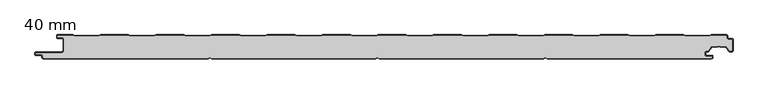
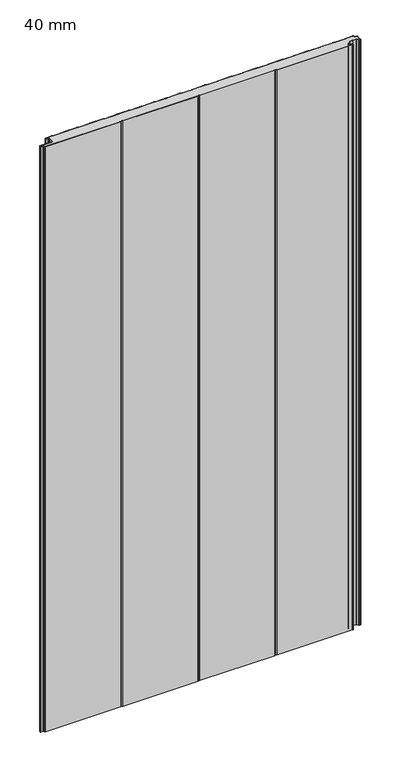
"""IFC4 building model written with IfcOpenShell, lengths in millimetres: plate geometry, HIANSA PANEL - H20.F02.003-PANELES DE FACHADA VERTICAL - PANEL SEMILISO - Panel de Muro Cortina : 40 mm."""

from ifc_helpers import new_model, si_unit, point, frame_2d, origin, origin_with_axes, place, context, project, spatial, polyline, circle_curve, trimmed, segment, composite_curve, outline, extrude, source, transform, mapped, element, save


def plate_40_mm_a75b9acf(model_context):
    return source(origin(), model_context, "Body", "SweptSolid", [
        extrude(outline(polyline([(572.7810465, -23.7998119), (572.7810465, -12.9009477), (573.2810465, -13.7002597), (573.2810465, -23.010534), (572.7810465, -23.7998119)])), origin_with_axes(), (0.0, 0.0, 1.0), 2200.0),
        extrude(outline(polyline([(-524.6789535, -12.9205793), (-524.6789535, -23.7723356), (-525.1789534, -23.0105341), (-525.1789534, -13.7002595), (-524.6789535, -12.9205793)])), origin_with_axes(), (0.0, 0.0, 1.0), 2200.0),
        extrude(outline(composite_curve([segment(polyline([(-525.1789536, -13.7002597), (-525.1789536, -7.54)]), True, "CONTINUOUS"), segment(trimmed(circle_curve(frame_2d((-526.7189536, -7.54)), 1.54), [point((-525.1789536, -7.54))], [point((-526.7189536, -6.0))], True, "CARTESIAN"), True, "CONTINUOUS"), segment(polyline([(-526.7189536, -6.0), (-534.3322682, -6.0)]), True, "CONTINUOUS"), segment(trimmed(circle_curve(frame_2d((-534.3322682, -4.5)), 1.5), [point((-534.3322682, -6.0))], [point((-535.8322682, -4.5))], False, "CARTESIAN"), True, "CONTINUOUS"), segment(polyline([(-535.8322682, -4.5), (-535.8322682, -1.5)]), True, "CONTINUOUS"), segment(trimmed(circle_curve(frame_2d((-534.3322682, -1.5)), 1.5), [point((-535.8322682, -1.5))], [point((-534.3322682, 0.0))], False, "CARTESIAN"), True, "CONTINUOUS"), segment(polyline([(-534.3322682, 0.0), (-509.3322682, 0.0), (-506.3322682, -1.0), (-466.3322682, -1.0), (-463.3322682, 0.0), (-418.3322682, 0.0), (-415.3322682, -1.0), (-375.3322682, -1.0), (-372.3322682, 0.0), (-327.3322682, 0.0), (-324.3322682, -1.0), (-284.3322682, -1.0), (-281.3322682, 0.0), (-236.3322682, 0.0), (-233.3322682, -1.0), (-193.3322682, -1.0), (-190.3322682, 0.0), (-145.3322682, 0.0), (-142.3322682, -1.0), (-102.3322682, -1.0), (-99.3322682, 0.0), (-54.3322682, 0.0), (-51.3322682, -1.0), (-11.3322682, -1.0), (-8.3322682, 0.0), (36.6677318, 0.0), (39.6677318, -1.0), (79.6677318, -1.0), (82.6677318, 0.0), (127.6677318, 0.0), (130.6677318, -1.0), (170.6677318, -1.0), (173.6677318, 0.0), (218.6677318, 0.0), (221.6677318, -1.0), (261.6677318, -1.0), (264.6677318, 0.0), (309.6677318, 0.0), (312.6677318, -1.0), (352.6677318, -1.0), (355.6677318, 0.0), (400.6677318, 0.0), (403.6677318, -1.0), (443.6677318, -1.0), (446.6677318, 0.0), (491.6677318, 0.0), (494.6677318, -1.0), (534.6677318, -1.0), (537.6677318, 0.0), (562.6277318, 0.0)]), True, "CONTINUOUS"), segment(trimmed(circle_curve(frame_2d((562.6277318, -1.5)), 1.5), [point((562.6277318, 0.0))], [point((564.1277318, -1.5000023))], False, "CARTESIAN"), True, "CONTINUOUS"), segment(polyline([(564.1277318, -1.5000023), (564.1277269, -4.7460034)]), True, "CONTINUOUS"), segment(trimmed(circle_curve(frame_2d((565.6317269, -4.7460057)), 1.504), [point((564.1277269, -4.7460034))], [point((565.6317269, -6.2500057))], True, "CARTESIAN"), True, "CONTINUOUS"), segment(polyline([(565.6317269, -6.2500057), (571.7810464, -6.2500057)]), True, "CONTINUOUS"), segment(trimmed(circle_curve(frame_2d((571.7810464, -7.7500057)), 1.5), [point((571.7810464, -6.2500057))], [point((573.2810464, -7.7500057))], False, "CARTESIAN"), True, "CONTINUOUS"), segment(polyline([(573.2810464, -7.7500057), (573.2810464, -13.7002597), (572.7810464, -12.9009477), (572.7810464, -7.75)]), True, "CONTINUOUS"), segment(trimmed(circle_curve(frame_2d((571.7810464, -7.75)), 1.0), [point((572.7810464, -7.75))], [point((571.7810464, -6.75))], True, "CARTESIAN"), True, "CONTINUOUS"), segment(polyline([(571.7810464, -6.75), (565.6317318, -6.75)]), True, "CONTINUOUS"), segment(trimmed(circle_curve(frame_2d((565.6317318, -4.746)), 2.004), [point((565.6317318, -6.75))], [point((563.6277318, -4.746))], False, "CARTESIAN"), True, "CONTINUOUS"), segment(polyline([(563.6277318, -4.746), (563.6277318, -1.5)]), True, "CONTINUOUS"), segment(trimmed(circle_curve(frame_2d((562.6277318, -1.5)), 1.0), [point((563.6277318, -1.5))], [point((562.6277318, -0.5))], True, "CARTESIAN"), True, "CONTINUOUS"), segment(polyline([(562.6277318, -0.5), (537.7488706, -0.5), (534.7488706, -1.5), (494.5865929, -1.5), (491.5865929, -0.5), (446.7488706, -0.5), (443.7488706, -1.5), (403.5865929, -1.5), (400.5865929, -0.5), (355.7488706, -0.5), (352.7488706, -1.5), (312.5865929, -1.5), (309.5865929, -0.5), (264.7488706, -0.5), (261.7488706, -1.5), (221.5865929, -1.5), (218.5865929, -0.5), (173.7488706, -0.5), (170.7488706, -1.5), (130.5865929, -1.5), (127.5865929, -0.5), (82.7488706, -0.5), (79.7488706, -1.5), (39.5865929, -1.5), (36.5865929, -0.5), (-8.2511294, -0.5), (-11.2511294, -1.5), (-51.4134071, -1.5), (-54.4134071, -0.5), (-99.2511294, -0.5), (-102.2511294, -1.5), (-142.4134071, -1.5), (-145.4134071, -0.5), (-190.2511294, -0.5), (-193.2511294, -1.5), (-233.4134071, -1.5), (-236.4134071, -0.5), (-281.2511294, -0.5), (-284.2511294, -1.5), (-324.4134071, -1.5), (-327.4134071, -0.5), (-372.2511294, -0.5), (-375.2511294, -1.5), (-415.4134071, -1.5), (-418.4134071, -0.5), (-463.2511294, -0.5), (-466.2511294, -1.5), (-506.4134071, -1.5), (-509.4134071, -0.5), (-534.3322682, -0.5)]), True, "CONTINUOUS"), segment(trimmed(circle_curve(frame_2d((-534.3322682, -1.5)), 1.0), [point((-534.3322682, -0.5))], [point((-535.3322682, -1.4999981))], True, "CARTESIAN"), True, "CONTINUOUS"), segment(polyline([(-535.3322682, -1.4999981), (-535.3322739, -4.4999981)]), True, "CONTINUOUS"), segment(trimmed(circle_curve(frame_2d((-534.3322682, -4.5)), 1.0000057), [point((-535.3322739, -4.4999981))], [point((-534.3322682, -5.5000057))], True, "CARTESIAN"), True, "CONTINUOUS"), segment(polyline([(-534.3322682, -5.5000057), (-526.7189536, -5.5000057)]), True, "CONTINUOUS"), segment(trimmed(circle_curve(frame_2d((-526.7189536, -7.5400057)), 2.04), [point((-526.7189536, -5.5000057))], [point((-524.6789536, -7.5400057))], False, "CARTESIAN"), True, "CONTINUOUS"), segment(polyline([(-524.6789536, -7.5400057), (-524.6789536, -12.9205793), (-525.1789536, -13.7002597)]), True, "CONTINUOUS")], self_intersect=False)), origin_with_axes(), (0.0, 0.0, 1.0), 2200.0),
        extrude(outline(composite_curve([segment(polyline([(-288.7930165, -40.0), (-555.8367122, -40.0), (-558.3953079, -39.3603511)]), True, "CONTINUOUS"), segment(trimmed(circle_curve(frame_2d((-557.9344902, -37.5170803)), 1.9), [point((-558.3953079, -39.3603511))], [point((-559.8344902, -37.5170803))], False, "CARTESIAN"), True, "CONTINUOUS"), segment(polyline([(-559.8344902, -37.5170803), (-559.8344902, -35.1276596)]), True, "CONTINUOUS"), segment(trimmed(circle_curve(frame_2d((-560.8344902, -35.1276596)), 1.0), [point((-559.8344902, -35.1276596))], [point((-560.8344902, -34.1276596))], True, "CARTESIAN"), True, "CONTINUOUS"), segment(polyline([(-560.8344902, -34.1276596), (-570.2500002, -34.1276596)]), True, "CONTINUOUS"), segment(trimmed(circle_curve(frame_2d((-570.2500002, -33.1276596)), 1.0), [point((-570.2500002, -34.1276596))], [point((-571.2500002, -33.1276596))], False, "CARTESIAN"), True, "CONTINUOUS"), segment(polyline([(-571.2500002, -33.1276596), (-571.2500002, -29.3776596)]), True, "CONTINUOUS"), segment(trimmed(circle_curve(frame_2d((-570.2500002, -29.3776596)), 1.0), [point((-571.2500002, -29.3776596))], [point((-570.2500002, -28.3776596))], False, "CARTESIAN"), True, "CONTINUOUS"), segment(polyline([(-570.2500002, -28.3776596), (-527.2189536, -28.3776596)]), True, "CONTINUOUS"), segment(trimmed(circle_curve(frame_2d((-527.2189536, -26.3376596)), 2.04), [point((-527.2189536, -28.3776596))], [point((-525.1789536, -26.3376596))], True, "CARTESIAN"), True, "CONTINUOUS"), segment(polyline([(-525.1789536, -26.3376596), (-525.1789536, -23.010534), (-524.6789536, -23.7723356), (-524.6789536, -26.3376596)]), True, "CONTINUOUS"), segment(trimmed(circle_curve(frame_2d((-527.2189536, -26.3376596)), 2.54), [point((-524.6789536, -26.3376596))], [point((-527.2189536, -28.8776596))], False, "CARTESIAN"), True, "CONTINUOUS"), segment(polyline([(-527.2189536, -28.8776596), (-570.7500002, -28.8776596), (-570.7500002, -33.6276596), (-560.8344902, -33.6276596)]), True, "CONTINUOUS"), segment(trimmed(circle_curve(frame_2d((-560.8344902, -35.1276596)), 1.5), [point((-560.8344902, -33.6276596))], [point((-559.3344902, -35.1276596))], False, "CARTESIAN"), True, "CONTINUOUS"), segment(polyline([(-559.3344902, -35.1276596), (-559.3344902, -37.5178943)]), True, "CONTINUOUS"), segment(trimmed(circle_curve(frame_2d((-557.9355327, -37.5178943)), 1.3989577), [point((-559.3344902, -37.5178943))], [point((-558.2748298, -38.8750826))], True, "CARTESIAN"), True, "CONTINUOUS"), segment(polyline([(-558.2748298, -38.8750826), (-555.7751594, -39.5), (-288.8753062, -39.5), (-284.8344902, -37.9523537), (-280.7936743, -39.5), (-13.8753062, -39.5), (-9.8344902, -37.9523537), (-5.7936743, -39.5), (261.1246938, -39.5), (265.1655098, -37.9523537), (269.2063257, -39.5), (536.106179, -39.5), (538.6050596, -38.8752798)]), True, "CONTINUOUS"), segment(trimmed(circle_curve(frame_2d((538.2655098, -37.5170803)), 1.4), [point((538.6050596, -38.8752798))], [point((539.6655098, -37.5170803))], True, "CARTESIAN"), True, "CONTINUOUS"), segment(polyline([(539.6655098, -37.5170803), (539.6655098, -34.8776596), (529.2499998, -34.8776596)]), True, "CONTINUOUS"), segment(trimmed(circle_curve(frame_2d((529.2499998, -33.3776596)), 1.5), [point((529.2499998, -34.8776596))], [point((527.7499998, -33.3776596))], False, "CARTESIAN"), True, "CONTINUOUS"), segment(polyline([(527.7499998, -33.3776596), (527.7499998, -29.1276596)]), True, "CONTINUOUS"), segment(trimmed(circle_curve(frame_2d((529.2499998, -29.1276596)), 1.5), [point((527.7499998, -29.1276596))], [point((529.2499998, -27.6276596))], False, "CARTESIAN"), True, "CONTINUOUS"), segment(polyline([(529.2499998, -27.6276596), (532.101303, -27.6276596)]), True, "CONTINUOUS"), segment(trimmed(circle_curve(frame_2d((532.101303, -26.1276596)), 1.5), [point((532.101303, -27.6276596))], [point((533.330031, -26.9880243))], True, "CARTESIAN"), True, "CONTINUOUS"), segment(polyline([(533.330031, -26.9880243), (537.5715505, -20.9305067)]), True, "CONTINUOUS"), segment(trimmed(circle_curve(frame_2d((539.2098546, -22.0776596)), 2.0), [point((537.5715505, -20.9305067))], [point((539.2098546, -20.0776596))], False, "CARTESIAN"), True, "CONTINUOUS"), segment(polyline([(539.2098546, -20.0776596), (548.3071795, -20.0776596), (549.4999998, -19.3889845)]), True, "CONTINUOUS"), segment(trimmed(circle_curve(frame_2d((549.9999998, -20.2550099)), 1.0), [point((549.4999998, -19.3889845))], [point((550.4999998, -19.3889845))], False, "CARTESIAN"), True, "CONTINUOUS"), segment(polyline([(550.4999998, -19.3889845), (551.6928202, -20.0776596), (560.7901451, -20.0776596)]), True, "CONTINUOUS"), segment(trimmed(circle_curve(frame_2d((560.7901451, -22.0776596)), 2.0), [point((560.7901451, -20.0776596))], [point((562.4284492, -20.9305067))], False, "CARTESIAN"), True, "CONTINUOUS"), segment(polyline([(562.4284492, -20.9305067), (566.6699686, -26.9880243)]), True, "CONTINUOUS"), segment(trimmed(circle_curve(frame_2d((567.8986967, -26.1276596)), 1.5), [point((566.6699686, -26.9880243))], [point((567.8986967, -27.6276596))], True, "CARTESIAN"), True, "CONTINUOUS"), segment(polyline([(567.8986967, -27.6276596), (571.2810464, -27.6276596)]), True, "CONTINUOUS"), segment(trimmed(circle_curve(frame_2d((571.2810464, -26.1276596)), 1.5), [point((571.2810464, -27.6276596))], [point((572.7810464, -26.1276596))], True, "CARTESIAN"), True, "CONTINUOUS"), segment(polyline([(572.7810464, -26.1276596), (572.7810464, -23.7998119), (573.2810464, -23.010534), (573.2810464, -26.1276596)]), True, "CONTINUOUS"), segment(trimmed(circle_curve(frame_2d((571.2810464, -26.1276596)), 2.0), [point((573.2810464, -26.1276596))], [point((571.2810464, -28.1276596))], False, "CARTESIAN"), True, "CONTINUOUS"), segment(polyline([(571.2810464, -28.1276596), (567.8986967, -28.1276596)]), True, "CONTINUOUS"), segment(trimmed(circle_curve(frame_2d((567.8986967, -26.1276596)), 2.0), [point((567.8986967, -28.1276596))], [point((566.2603926, -27.2748125))], False, "CARTESIAN"), True, "CONTINUOUS"), segment(polyline([(566.2603926, -27.2748125), (562.0188732, -21.2172949)]), True, "CONTINUOUS"), segment(trimmed(circle_curve(frame_2d((560.7901451, -22.0776596)), 1.5), [point((562.0188732, -21.2172949))], [point((560.7901451, -20.5776596))], True, "CARTESIAN"), True, "CONTINUOUS"), segment(polyline([(560.7901451, -20.5776596), (551.5588456, -20.5776596), (549.9999998, -19.6776596), (548.4411541, -20.5776596), (539.2098546, -20.5776596)]), True, "CONTINUOUS"), segment(trimmed(circle_curve(frame_2d((539.2098546, -22.0776596)), 1.5), [point((539.2098546, -20.5776596))], [point((537.9811265, -21.2172949))], True, "CARTESIAN"), True, "CONTINUOUS"), segment(polyline([(537.9811265, -21.2172949), (533.7396071, -27.2748125)]), True, "CONTINUOUS"), segment(trimmed(circle_curve(frame_2d((532.101303, -26.1276596)), 2.0), [point((533.7396071, -27.2748125))], [point((532.101303, -28.1276596))], False, "CARTESIAN"), True, "CONTINUOUS"), segment(polyline([(532.101303, -28.1276596), (529.2499998, -28.1276596)]), True, "CONTINUOUS"), segment(trimmed(circle_curve(frame_2d((529.2499998, -29.1276596)), 1.0), [point((529.2499998, -28.1276596))], [point((528.2499998, -29.1276596))], True, "CARTESIAN"), True, "CONTINUOUS"), segment(polyline([(528.2499998, -29.1276596), (528.2499998, -33.3776596)]), True, "CONTINUOUS"), segment(trimmed(circle_curve(frame_2d((529.2499998, -33.3776596)), 1.0), [point((528.2499998, -33.3776596))], [point((529.2499998, -34.3776596))], True, "CARTESIAN"), True, "CONTINUOUS"), segment(polyline([(529.2499998, -34.3776596), (539.1655098, -34.3776596)]), True, "CONTINUOUS"), segment(trimmed(circle_curve(frame_2d((539.1655098, -35.3776596)), 1.0), [point((539.1655098, -34.3776596))], [point((540.1655098, -35.3776596))], False, "CARTESIAN"), True, "CONTINUOUS"), segment(polyline([(540.1655098, -35.3776596), (540.1655098, -37.5170803)]), True, "CONTINUOUS"), segment(trimmed(circle_curve(frame_2d((538.2655098, -37.5170803)), 1.9), [point((540.1655098, -37.5170803))], [point((538.7263275, -39.3603511))], False, "CARTESIAN"), True, "CONTINUOUS"), segment(polyline([(538.7263275, -39.3603511), (536.1677318, -40.0), (269.124036, -40.0), (265.1655098, -38.483871), (261.2069835, -40.0), (-5.875964, -40.0), (-9.8344902, -38.483871), (-13.7930165, -40.0), (-280.875964, -40.0), (-284.8344902, -38.483871), (-288.7930165, -40.0)]), True, "CONTINUOUS")], self_intersect=False)), origin_with_axes(), (0.0, 0.0, 1.0), 2200.0),
        extrude(outline(composite_curve([segment(polyline([(-555.804199, -39.4927405), (-558.2748296, -38.8750829)]), True, "CONTINUOUS"), segment(trimmed(circle_curve(frame_2d((-557.9355326, -37.5178947)), 1.3989576), [point((-558.2748296, -38.8750829))], [point((-559.3344902, -37.5178947))], False, "CARTESIAN"), True, "CONTINUOUS"), segment(polyline([(-559.3344902, -37.5178947), (-559.3344902, -35.1276601)]), True, "CONTINUOUS"), segment(trimmed(circle_curve(frame_2d((-560.8344902, -35.1276601)), 1.5), [point((-559.3344902, -35.1276601))], [point((-560.8344902, -33.6276601))], True, "CARTESIAN"), True, "CONTINUOUS"), segment(polyline([(-560.8344902, -33.6276601), (-570.7500001, -33.6276601), (-570.7500001, -28.8776601), (-527.2189535, -28.8776601)]), True, "CONTINUOUS"), segment(trimmed(circle_curve(frame_2d((-527.2189535, -26.3376599)), 2.5400001), [point((-527.2189535, -28.8776601))], [point((-524.6789534, -26.3376599))], True, "CARTESIAN"), True, "CONTINUOUS"), segment(polyline([(-524.6789534, -26.3376599), (-524.6789534, -7.540006)]), True, "CONTINUOUS"), segment(trimmed(circle_curve(frame_2d((-526.7189536, -7.540006)), 2.0400002), [point((-524.6789534, -7.540006))], [point((-526.7189536, -5.5000059))], True, "CARTESIAN"), True, "CONTINUOUS"), segment(polyline([(-526.7189536, -5.5000059), (-534.332268, -5.5000059)]), True, "CONTINUOUS"), segment(trimmed(circle_curve(frame_2d((-534.332268, -4.4999998)), 1.0000061), [point((-534.332268, -5.5000059))], [point((-535.3322741, -4.4999978))], False, "CARTESIAN"), True, "CONTINUOUS"), segment(polyline([(-535.3322741, -4.4999978), (-535.332268, -1.4999977)]), True, "CONTINUOUS"), segment(trimmed(circle_curve(frame_2d((-534.3322682, -1.4999997)), 0.9999997), [point((-535.332268, -1.4999977))], [point((-534.3322682, -0.5))], False, "CARTESIAN"), True, "CONTINUOUS"), segment(polyline([(-534.3322682, -0.5), (-509.413407, -0.5), (-506.413407, -1.5000005), (-466.2511293, -1.5000005), (-463.2511293, -0.5000005), (-418.413407, -0.5000005), (-415.413407, -1.5000005), (-375.2511293, -1.5000005), (-372.2511293, -0.5000005), (-327.413407, -0.5000005), (-324.413407, -1.5000005), (-284.2511293, -1.5000005), (-281.2511293, -0.5000005), (-236.413407, -0.5000005), (-233.413407, -1.5000005), (-193.2511293, -1.5000005), (-190.2511293, -0.5000005), (-145.413407, -0.5000005), (-142.413407, -1.5000005), (-102.2511293, -1.5000005), (-99.2511293, -0.5000005), (-54.413407, -0.5000005), (-51.413407, -1.5000005), (-11.2511293, -1.5000005), (-8.2511293, -0.5000005), (36.586593, -0.5000005), (39.586593, -1.5000005), (79.7488707, -1.5000005), (82.7488707, -0.5000005), (127.586593, -0.5000005), (130.586593, -1.5000005), (170.7488707, -1.5000005), (173.7488707, -0.5000005), (218.586593, -0.5000005), (221.586593, -1.5000005), (261.7488707, -1.5000005), (264.7488707, -0.5000005), (309.586593, -0.5000005), (312.586593, -1.5000005), (352.7488707, -1.5000005), (355.7488707, -0.5000005), (400.586593, -0.5000005), (403.586593, -1.5000005), (443.7488707, -1.5000005), (446.7488707, -0.5000005), (491.586593, -0.5000005), (494.586593, -1.5000005), (534.7488707, -1.5000005), (537.7488721, -0.5), (562.6277319, -0.5)]), True, "CONTINUOUS"), segment(trimmed(circle_curve(frame_2d((562.6277319, -1.5)), 1.0), [point((562.6277319, -0.5))], [point((563.6277319, -1.5))], False, "CARTESIAN"), True, "CONTINUOUS"), segment(polyline([(563.6277319, -1.5), (563.6277319, -4.7460005)]), True, "CONTINUOUS"), segment(trimmed(circle_curve(frame_2d((565.6317319, -4.7460005)), 2.004), [point((563.6277319, -4.7460005))], [point((565.6317319, -6.7500005))], True, "CARTESIAN"), True, "CONTINUOUS"), segment(polyline([(565.6317319, -6.7500005), (571.7810465, -6.7500005)]), True, "CONTINUOUS"), segment(trimmed(circle_curve(frame_2d((571.7810465, -7.7500005)), 1.0), [point((571.7810465, -6.7500005))], [point((572.7810465, -7.7500005))], False, "CARTESIAN"), True, "CONTINUOUS"), segment(polyline([(572.7810465, -7.7500005), (572.7810465, -26.1276601)]), True, "CONTINUOUS"), segment(trimmed(circle_curve(frame_2d((571.2810465, -26.1276601)), 1.5), [point((572.7810465, -26.1276601))], [point((571.2810465, -27.6276601))], False, "CARTESIAN"), True, "CONTINUOUS"), segment(polyline([(571.2810465, -27.6276601), (567.8986968, -27.6276601)]), True, "CONTINUOUS"), segment(trimmed(circle_curve(frame_2d((567.8986968, -26.1276601)), 1.5), [point((567.8986968, -27.6276601))], [point((566.6699687, -26.9880247))], False, "CARTESIAN"), True, "CONTINUOUS"), segment(polyline([(566.6699687, -26.9880247), (562.4284493, -20.9305072)]), True, "CONTINUOUS"), segment(trimmed(circle_curve(frame_2d((560.7901452, -22.0776601)), 2.0), [point((562.4284493, -20.9305072))], [point((560.7901452, -20.0776601))], True, "CARTESIAN"), True, "CONTINUOUS"), segment(polyline([(560.7901452, -20.0776601), (551.6928203, -20.0776601), (550.4999999, -19.3889849)]), True, "CONTINUOUS"), segment(trimmed(circle_curve(frame_2d((549.9999999, -20.2550103)), 1.0), [point((550.4999999, -19.3889849))], [point((549.4999999, -19.3889849))], True, "CARTESIAN"), True, "CONTINUOUS"), segment(polyline([(549.4999999, -19.3889849), (548.3071796, -20.0776601), (539.2098547, -20.0776601)]), True, "CONTINUOUS"), segment(trimmed(circle_curve(frame_2d((539.2098547, -22.0776601)), 2.0), [point((539.2098547, -20.0776601))], [point((537.5715506, -20.9305072))], True, "CARTESIAN"), True, "CONTINUOUS"), segment(polyline([(537.5715506, -20.9305072), (533.3300311, -26.9880247)]), True, "CONTINUOUS"), segment(trimmed(circle_curve(frame_2d((532.1013031, -26.1276601)), 1.5), [point((533.3300311, -26.9880247))], [point((532.1013031, -27.6276601))], False, "CARTESIAN"), True, "CONTINUOUS"), segment(polyline([(532.1013031, -27.6276601), (529.2499999, -27.6276601)]), True, "CONTINUOUS"), segment(trimmed(circle_curve(frame_2d((529.2499999, -29.1276601)), 1.5), [point((529.2499999, -27.6276601))], [point((527.7499999, -29.1276601))], True, "CARTESIAN"), True, "CONTINUOUS"), segment(polyline([(527.7499999, -29.1276601), (527.7499999, -33.3776601)]), True, "CONTINUOUS"), segment(trimmed(circle_curve(frame_2d((529.2499999, -33.3776601)), 1.5), [point((527.7499999, -33.3776601))], [point((529.2499999, -34.8776601))], True, "CARTESIAN"), True, "CONTINUOUS"), segment(polyline([(529.2499999, -34.8776601), (539.6655099, -34.8776601), (539.6655099, -37.5170808)]), True, "CONTINUOUS"), segment(trimmed(circle_curve(frame_2d((538.2655099, -37.5170808)), 1.4), [point((539.6655099, -37.5170808))], [point((538.6050597, -38.8752803))], False, "CARTESIAN"), True, "CONTINUOUS"), segment(polyline([(538.6050597, -38.8752803), (536.1352187, -39.4927405), (269.1873706, -39.4927405), (265.1655099, -37.9523542), (261.1246939, -39.5000005), (-5.7936742, -39.5000005), (-9.8344901, -37.9523542), (-13.8753061, -39.5000005), (-280.7936742, -39.5000005), (-284.8344901, -37.9523542), (-288.8563508, -39.4927405), (-555.804199, -39.4927405)]), True, "CONTINUOUS")], self_intersect=False)), origin_with_axes(), (0.0, 0.0, 1.0), 2200.0),
    ])


if __name__ == "__main__":
    model = new_model("IFC4")
    model_context = context("Model", 3, world=origin())
    ifc_project = project(units=[si_unit("LENGTHUNIT", "METRE", prefix="MILLI")], contexts=[model_context])
    site = spatial("IfcSite", under=ifc_project)
    building = spatial("IfcBuilding", under=site)
    placement = place(None, origin())
    plate_40_mm_shape = plate_40_mm_a75b9acf(model_context)
    element("IfcPlate", 1, ObjectType="HIANSA PANEL - H20.F02.003-PANELES DE FACHADA VERTICAL - PANEL SEMILISO - Panel de Muro Cortina : 40 mm", at=placement, inside=building, context=model_context, shape_type="MappedRepresentation", body=[
        mapped(plate_40_mm_shape, transform((0.0, 0.0, 0.0), x_axis=(1.0, 0.0, 0.0), y_axis=(0.0, 1.0, 0.0), z_axis=(0.0, 0.0, 1.0))),
    ])
    save(model, "model.ifc")
